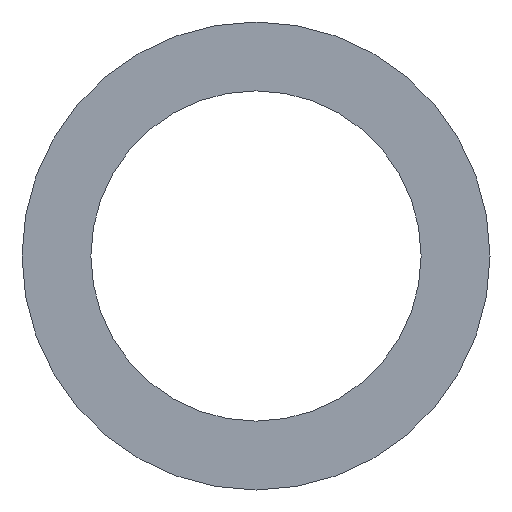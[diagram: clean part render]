
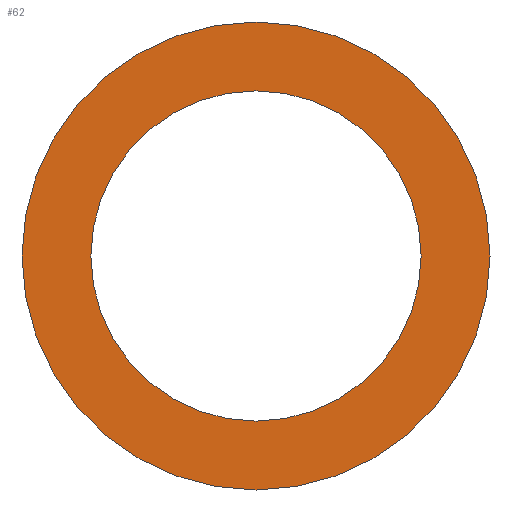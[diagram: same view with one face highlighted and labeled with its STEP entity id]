
A CAD part, front view. The second image highlights one B-rep face of the part: STEP entity #62.
In plain terms, the highlighted planar face has unit normal (0, -1, 0).
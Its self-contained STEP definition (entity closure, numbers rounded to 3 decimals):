
#20=PLANE('',#83);
#26=ORIENTED_EDGE('',*,*,#30,.T.);
#27=ORIENTED_EDGE('',*,*,#32,.F.);
#30=EDGE_CURVE('',#34,#34,#38,.T.);
#32=EDGE_CURVE('',#36,#36,#40,.T.);
#34=VERTEX_POINT('',#106);
#36=VERTEX_POINT('',#111);
#38=CIRCLE('',#78,259.);
#40=CIRCLE('',#81,367.);
#46=EDGE_LOOP('',(#26));
#47=EDGE_LOOP('',(#27));
#54=FACE_BOUND('',#46,.T.);
#55=FACE_BOUND('',#47,.T.);
#62=ADVANCED_FACE('',(#54,#55),#20,.F.);
#78=AXIS2_PLACEMENT_3D('',#105,#89,#90);
#81=AXIS2_PLACEMENT_3D('',#110,#95,#96);
#83=AXIS2_PLACEMENT_3D('',#114,#99,#100);
#89=DIRECTION('',(0.,1.,0.));
#90=DIRECTION('',(1.,0.,0.));
#95=DIRECTION('',(0.,1.,0.));
#96=DIRECTION('',(1.,0.,0.));
#99=DIRECTION('',(0.,1.,0.));
#100=DIRECTION('',(0.,0.,1.));
#105=CARTESIAN_POINT('',(0.,-1.5,0.));
#106=CARTESIAN_POINT('',(259.,-1.5,0.));
#110=CARTESIAN_POINT('',(0.,-1.5,0.));
#111=CARTESIAN_POINT('',(367.,-1.5,0.));
#114=CARTESIAN_POINT('',(0.,-1.5,0.));
